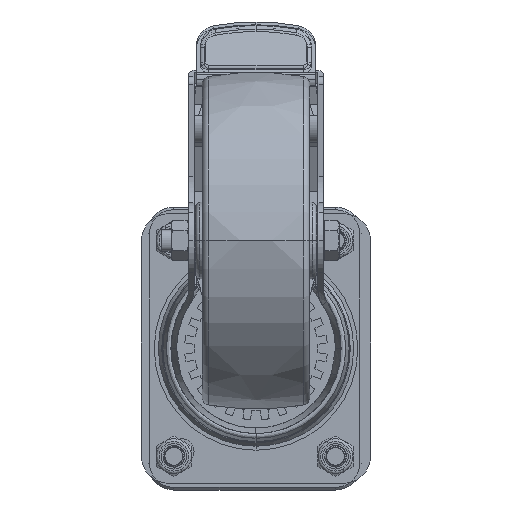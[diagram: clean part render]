
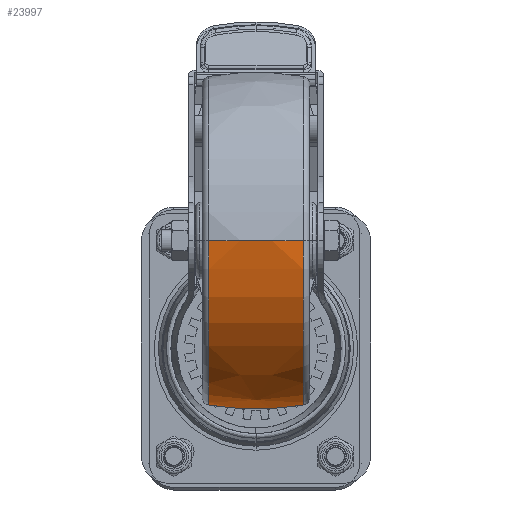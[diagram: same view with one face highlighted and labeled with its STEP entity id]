
A CAD part, front view. The second image highlights one B-rep face of the part: STEP entity #23997.
In plain terms, the highlighted free-form (B-spline) face has degree [3, 3] with [4, 4] control points.
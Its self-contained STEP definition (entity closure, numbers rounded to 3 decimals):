
#1438 = CIRCLE ( 'NONE', #36194, 100. ) ;
#2455 = CARTESIAN_POINT ( 'NONE',  ( -60.952, -24.499, 62.111 ) ) ;
#2521 = EDGE_LOOP ( 'NONE', ( #7435, #27690, #46333, #20472 ) ) ;
#2740 = CARTESIAN_POINT ( 'NONE',  ( 37.5, -6.973, 62.111 ) ) ;
#2828 = DIRECTION ( 'NONE',  ( 1., 0., 0. ) ) ;
#2944 = CARTESIAN_POINT ( 'NONE',  ( -63.021, -1.07, -63.931 ) ) ;
#3056 = AXIS2_PLACEMENT_3D ( 'NONE', #32324, #5237, #46802 ) ;
#3234 = DIRECTION ( 'NONE',  ( -1., 0., 0. ) ) ;
#4010 = DIRECTION ( 'NONE',  ( 1., 0., 0. ) ) ;
#5237 = DIRECTION ( 'NONE',  ( 0., -1., 0. ) ) ;
#6495 = CARTESIAN_POINT ( 'NONE',  ( -63.021, -12.876, -63.931 ) ) ;
#6779 = DIRECTION ( 'NONE',  ( 0., 0., -1. ) ) ;
#7306 =( BOUNDED_SURFACE ( )  B_SPLINE_SURFACE ( 3, 3, ( 
 ( #2455, #21927, #17903, #29537 ),
 ( #32335, #6495, #47814, #13094 ),
 ( #49303, #2944, #18395, #30536 ),
 ( #18646, #14594, #30033, #25992 ) ),
 .UNSPECIFIED., .F., .F., .F. ) 
 B_SPLINE_SURFACE_WITH_KNOTS ( ( 4, 4 ),
 ( 4, 4 ),
 ( 0., 1. ),
 ( 0., 1. ),
 .UNSPECIFIED. ) 
 GEOMETRIC_REPRESENTATION_ITEM ( )  RATIONAL_B_SPLINE_SURFACE ( (
 ( 1., 0.333, 0.333, 1.),
 ( 0.99, 0.33, 0.33, 0.99),
 ( 0.99, 0.33, 0.33, 0.99),
 ( 1., 0.333, 0.333, 1.) ) ) 
 REPRESENTATION_ITEM ( '' )  SURFACE ( )  );
#7435 = ORIENTED_EDGE ( 'NONE', *, *, #27380, .T. ) ;
#10354 = CIRCLE ( 'NONE', #31355, 60.952 ) ;
#13094 = CARTESIAN_POINT ( 'NONE',  ( 63.021, -12.876, 62.111 ) ) ;
#14594 = CARTESIAN_POINT ( 'NONE',  ( -60.952, 10.553, -59.793 ) ) ;
#16177 = CIRCLE ( 'NONE', #32326, 100. ) ;
#17903 = CARTESIAN_POINT ( 'NONE',  ( 60.952, -24.499, -59.793 ) ) ;
#18395 = CARTESIAN_POINT ( 'NONE',  ( 63.021, -1.07, -63.931 ) ) ;
#18646 = CARTESIAN_POINT ( 'NONE',  ( -60.952, 10.553, 62.111 ) ) ;
#20472 = ORIENTED_EDGE ( 'NONE', *, *, #26586, .F. ) ;
#21927 = CARTESIAN_POINT ( 'NONE',  ( -60.952, -24.499, -59.793 ) ) ;
#23997 = ADVANCED_FACE ( 'NONE', ( #37376 ), #7306, .T. ) ;
#25992 = CARTESIAN_POINT ( 'NONE',  ( 60.952, 10.553, 62.111 ) ) ;
#26508 = CARTESIAN_POINT ( 'NONE',  ( 60.952, 10.553, 62.111 ) ) ;
#26586 = EDGE_CURVE ( 'NONE', #38685, #27821, #1438, .T. ) ;
#27110 = VERTEX_POINT ( 'NONE', #28618 ) ;
#27380 = EDGE_CURVE ( 'NONE', #38685, #27110, #10354, .T. ) ;
#27492 = VERTEX_POINT ( 'NONE', #36895 ) ;
#27690 = ORIENTED_EDGE ( 'NONE', *, *, #37078, .T. ) ;
#27737 = CARTESIAN_POINT ( 'NONE',  ( 60.952, -24.499, 62.111 ) ) ;
#27821 = VERTEX_POINT ( 'NONE', #26508 ) ;
#28121 = CIRCLE ( 'NONE', #3056, 60.952 ) ;
#28618 = CARTESIAN_POINT ( 'NONE',  ( -60.952, -24.499, 62.111 ) ) ;
#29537 = CARTESIAN_POINT ( 'NONE',  ( 60.952, -24.499, 62.111 ) ) ;
#30033 = CARTESIAN_POINT ( 'NONE',  ( 60.952, 10.553, -59.793 ) ) ;
#30536 = CARTESIAN_POINT ( 'NONE',  ( 63.021, -1.07, 62.111 ) ) ;
#31355 = AXIS2_PLACEMENT_3D ( 'NONE', #46569, #39456, #4010 ) ;
#32324 = CARTESIAN_POINT ( 'NONE',  ( 0., 10.553, 62.111 ) ) ;
#32326 = AXIS2_PLACEMENT_3D ( 'NONE', #2740, #6779, #3234 ) ;
#32335 = CARTESIAN_POINT ( 'NONE',  ( -63.021, -12.876, 62.111 ) ) ;
#33272 = EDGE_CURVE ( 'NONE', #27492, #27821, #28121, .T. ) ;
#36194 = AXIS2_PLACEMENT_3D ( 'NONE', #48942, #36514, #2828 ) ;
#36514 = DIRECTION ( 'NONE',  ( 0., 0., 1. ) ) ;
#36895 = CARTESIAN_POINT ( 'NONE',  ( -60.952, 10.553, 62.111 ) ) ;
#37078 = EDGE_CURVE ( 'NONE', #27110, #27492, #16177, .T. ) ;
#37376 = FACE_OUTER_BOUND ( 'NONE', #2521, .T. ) ;
#38685 = VERTEX_POINT ( 'NONE', #27737 ) ;
#39456 = DIRECTION ( 'NONE',  ( 0., 1., 0. ) ) ;
#46333 = ORIENTED_EDGE ( 'NONE', *, *, #33272, .T. ) ;
#46569 = CARTESIAN_POINT ( 'NONE',  ( 0., -24.499, 62.111 ) ) ;
#46802 = DIRECTION ( 'NONE',  ( 1., 0., 0. ) ) ;
#47814 = CARTESIAN_POINT ( 'NONE',  ( 63.021, -12.876, -63.931 ) ) ;
#48942 = CARTESIAN_POINT ( 'NONE',  ( -37.5, -6.973, 62.111 ) ) ;
#49303 = CARTESIAN_POINT ( 'NONE',  ( -63.021, -1.07, 62.111 ) ) ;
